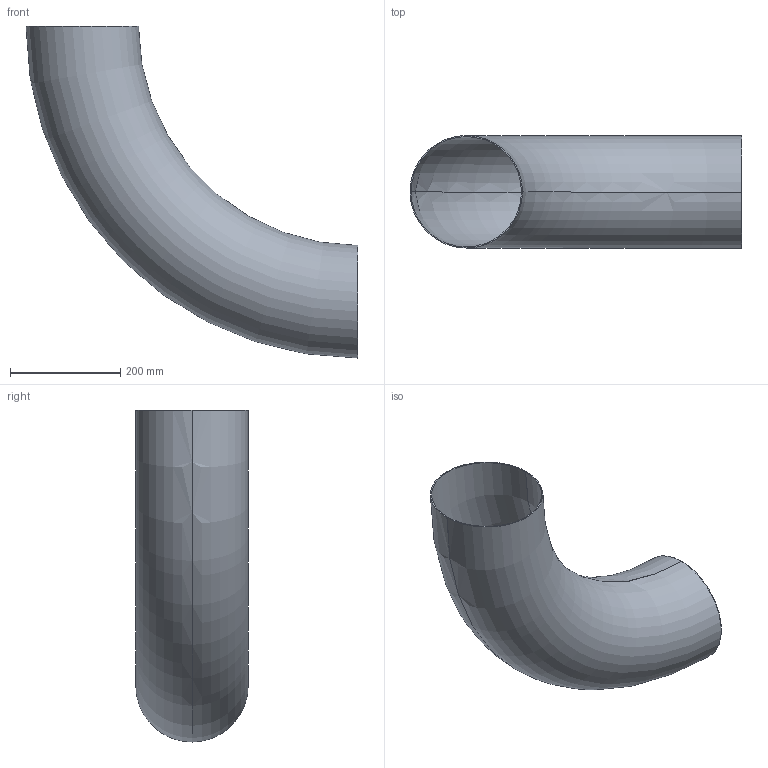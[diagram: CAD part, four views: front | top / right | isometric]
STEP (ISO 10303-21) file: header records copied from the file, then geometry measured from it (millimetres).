
FILE_DESCRIPTION (( 'STEP AP203' ), '1' );
FILE_NAME ('3D_R1655_204x2_17362360.STEP', '2024-08-05T09:25:40', ( '' ), ( '' ), 'SwSTEP 2.0', 'SolidWorks 2024', '' );
FILE_SCHEMA (( 'CONFIG_CONTROL_DESIGN' ));
Length unit declared in the file: millimetre
Products named in the file (1): 3D_R1655_204x2_17362360
Bounding box: 602 x 204 x 602 mm (x, y, z)
Volume: 996830 mm3; surface area: 999368.5 mm2
Topology: 1 solids, 1 shells, 6 faces, 12 edges, 8 vertices
Faces by surface type: torus 4, plane 2
Entity records: 249 total; most frequent: DIRECTION 38, CARTESIAN_POINT 27, ORIENTED_EDGE 24, AXIS2_PLACEMENT_3D 19, CIRCLE 12, EDGE_CURVE 12, EDGE_LOOP 8, PERSON_AND_ORGANIZATION 8
